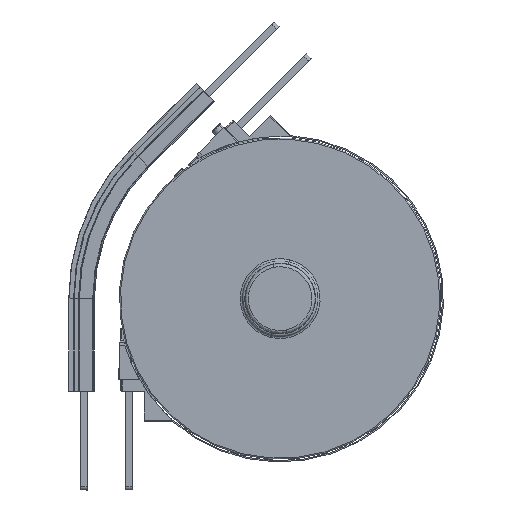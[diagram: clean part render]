
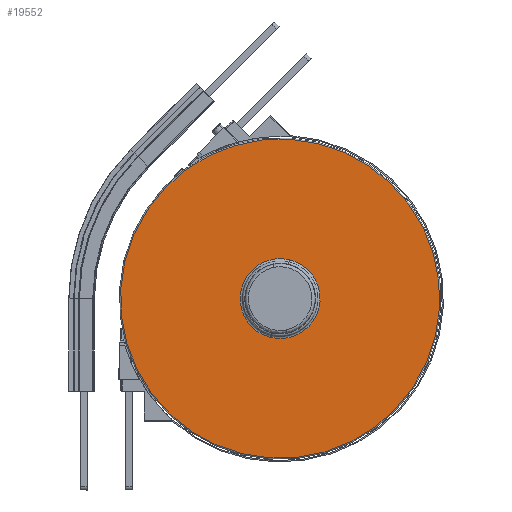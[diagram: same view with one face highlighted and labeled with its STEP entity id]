
A CAD part, front view. The second image highlights one B-rep face of the part: STEP entity #19552.
In plain terms, the highlighted planar face has unit normal (0, -1, 0) as drawn and (0, 0, 1) by its records, which use the part's own axes.
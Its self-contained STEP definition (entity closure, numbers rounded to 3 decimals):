
#3037 = EDGE_LOOP ( 'NONE', ( #13474, #13476 ) ) ;
#3038 = EDGE_LOOP ( 'NONE', ( #13471, #13472 ) ) ;
#7186 = FACE_OUTER_BOUND ( 'NONE', #3038, .T. ) ;
#7188 = DIRECTION ( 'NONE',  ( 0., 0., 1. ) ) ;
#7190 = CARTESIAN_POINT ( 'NONE',  ( 981.95, 0., 21.9 ) ) ;
#7192 = FACE_BOUND ( 'NONE', #3037, .T. ) ;
#7193 = PLANE ( 'NONE',  #37439 ) ;
#7195 = DIRECTION ( 'NONE',  ( 1., 0., 0. ) ) ;
#9163 = CIRCLE ( 'NONE', #9202, 137.8 ) ;
#9202 = AXIS2_PLACEMENT_3D ( 'NONE', #25794, #25795, #25797 ) ;
#9209 = CIRCLE ( 'NONE', #9212, 34.5 ) ;
#9212 = AXIS2_PLACEMENT_3D ( 'NONE', #25841, #25842, #25844 ) ;
#11594 = CARTESIAN_POINT ( 'NONE',  ( 895.8, -137.8, 21.9 ) ) ;
#12139 = CARTESIAN_POINT ( 'NONE',  ( 930.3, 0., 21.9 ) ) ;
#12140 = CARTESIAN_POINT ( 'NONE',  ( 895.8, 137.8, 21.9 ) ) ;
#12147 = CARTESIAN_POINT ( 'NONE',  ( 861.3, 0., 21.9 ) ) ;
#13471 = ORIENTED_EDGE ( 'NONE', *, *, #25143, .T. ) ;
#13472 = ORIENTED_EDGE ( 'NONE', *, *, #24051, .T. ) ;
#13474 = ORIENTED_EDGE ( 'NONE', *, *, #25141, .T. ) ;
#13476 = ORIENTED_EDGE ( 'NONE', *, *, #24063, .T. ) ;
#19552 = ADVANCED_FACE ( 'NONE', ( #7186, #7192 ), #7193, .T. ) ;
#20895 = VERTEX_POINT ( 'NONE', #11594 ) ;
#21440 = VERTEX_POINT ( 'NONE', #12139 ) ;
#21441 = VERTEX_POINT ( 'NONE', #12140 ) ;
#21448 = VERTEX_POINT ( 'NONE', #12147 ) ;
#24051 = EDGE_CURVE ( 'NONE', #20895, #21441, #9163, .T. ) ;
#24063 = EDGE_CURVE ( 'NONE', #21440, #21448, #9209, .T. ) ;
#25141 = EDGE_CURVE ( 'NONE', #21448, #21440, #29259, .T. ) ;
#25143 = EDGE_CURVE ( 'NONE', #21441, #20895, #29261, .T. ) ;
#25794 = CARTESIAN_POINT ( 'NONE',  ( 895.8, 0., 21.9 ) ) ;
#25795 = DIRECTION ( 'NONE',  ( 0., 0., 1. ) ) ;
#25797 = DIRECTION ( 'NONE',  ( 0., 1., 0. ) ) ;
#25841 = CARTESIAN_POINT ( 'NONE',  ( 895.8, 0., 21.9 ) ) ;
#25842 = DIRECTION ( 'NONE',  ( 0., 0., -1. ) ) ;
#25844 = DIRECTION ( 'NONE',  ( -1., 0., 0. ) ) ;
#29259 = CIRCLE ( 'NONE', #29262, 34.5 ) ;
#29261 = CIRCLE ( 'NONE', #29264, 137.8 ) ;
#29262 = AXIS2_PLACEMENT_3D ( 'NONE', #33094, #33096, #33098 ) ;
#29264 = AXIS2_PLACEMENT_3D ( 'NONE', #33104, #33106, #33108 ) ;
#33094 = CARTESIAN_POINT ( 'NONE',  ( 895.8, 0., 21.9 ) ) ;
#33096 = DIRECTION ( 'NONE',  ( 0., 0., -1. ) ) ;
#33098 = DIRECTION ( 'NONE',  ( -1., 0., 0. ) ) ;
#33104 = CARTESIAN_POINT ( 'NONE',  ( 895.8, 0., 21.9 ) ) ;
#33106 = DIRECTION ( 'NONE',  ( 0., 0., 1. ) ) ;
#33108 = DIRECTION ( 'NONE',  ( 0., 1., 0. ) ) ;
#37439 = AXIS2_PLACEMENT_3D ( 'NONE', #7190, #7188, #7195 ) ;
